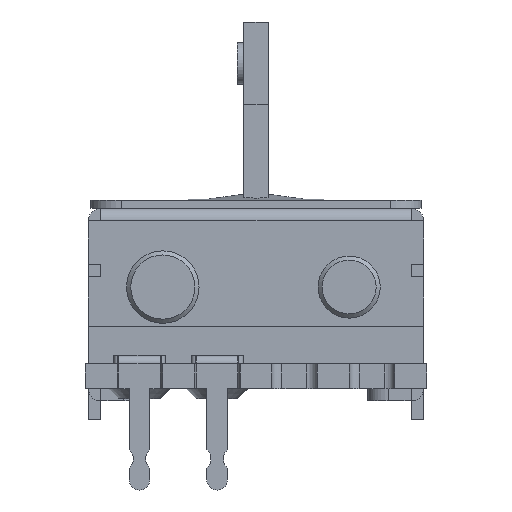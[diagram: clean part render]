
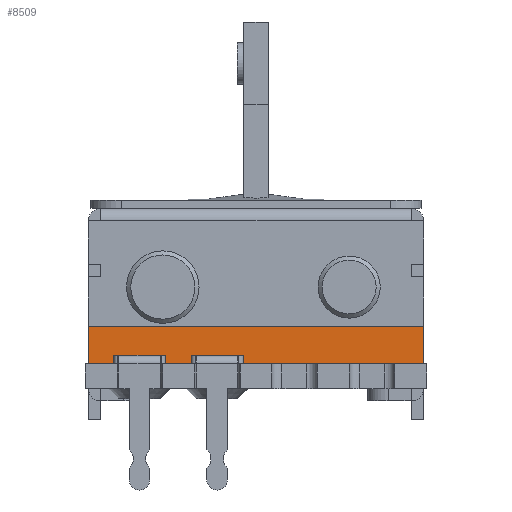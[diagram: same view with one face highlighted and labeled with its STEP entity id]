
A CAD part, left-side view. The second image highlights one B-rep face of the part: STEP entity #8509.
In plain terms, the highlighted planar face has unit normal (-1, 0, 0).
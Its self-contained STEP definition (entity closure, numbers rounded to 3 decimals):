
#156 = PLANE('',#157);
#157 = AXIS2_PLACEMENT_3D('',#158,#159,#160);
#158 = CARTESIAN_POINT('',(0.,8.1,-8.466));
#159 = DIRECTION('',(0.,1.,0.));
#160 = DIRECTION('',(0.,0.,1.));
#257 = PLANE('',#258);
#258 = AXIS2_PLACEMENT_3D('',#259,#260,#261);
#259 = CARTESIAN_POINT('',(0.,-8.1,-8.466));
#260 = DIRECTION('',(0.,-1.,0.));
#261 = DIRECTION('',(0.,0.,-1.));
#3009 = VERTEX_POINT('',#3010);
#3010 = CARTESIAN_POINT('',(-31.,8.1,-7.9));
#3023 = PLANE('',#3024);
#3024 = AXIS2_PLACEMENT_3D('',#3025,#3026,#3027);
#3025 = CARTESIAN_POINT('',(-36.5,-8.25,-7.9));
#3026 = DIRECTION('',(0.,0.,1.));
#3027 = DIRECTION('',(1.,0.,0.));
#3035 = EDGE_CURVE('',#3036,#3009,#3038,.T.);
#3036 = VERTEX_POINT('',#3037);
#3037 = CARTESIAN_POINT('',(-31.,8.1,-6.1));
#3038 = SURFACE_CURVE('',#3039,(#3043,#3049),.PCURVE_S1.);
#3039 = LINE('',#3040,#3041);
#3040 = CARTESIAN_POINT('',(-31.,8.1,-7.283));
#3041 = VECTOR('',#3042,1.);
#3042 = DIRECTION('',(0.,0.,-1.));
#3043 = PCURVE('',#156,#3044);
#3044 = DEFINITIONAL_REPRESENTATION('',(#3045),#3048);
#3045 = B_SPLINE_CURVE_WITH_KNOTS('',1,(#3046,#3047),.UNSPECIFIED.,.F.,
  .F.,(2,2),(-1.183,0.617),.PIECEWISE_BEZIER_KNOTS.);
#3046 = CARTESIAN_POINT('',(2.366,-31.));
#3047 = CARTESIAN_POINT('',(0.566,-31.));
#3048 = ( GEOMETRIC_REPRESENTATION_CONTEXT(2) 
PARAMETRIC_REPRESENTATION_CONTEXT() REPRESENTATION_CONTEXT('2D SPACE',''
  ) );
#3049 = PCURVE('',#3050,#3055);
#3050 = PLANE('',#3051);
#3051 = AXIS2_PLACEMENT_3D('',#3052,#3053,#3054);
#3052 = CARTESIAN_POINT('',(-31.,10.,-6.1));
#3053 = DIRECTION('',(1.,0.,0.));
#3054 = DIRECTION('',(0.,0.,-1.));
#3055 = DEFINITIONAL_REPRESENTATION('',(#3056),#3059);
#3056 = B_SPLINE_CURVE_WITH_KNOTS('',1,(#3057,#3058),.UNSPECIFIED.,.F.,
  .F.,(2,2),(-1.183,0.617),.PIECEWISE_BEZIER_KNOTS.);
#3057 = CARTESIAN_POINT('',(0.,-1.9));
#3058 = CARTESIAN_POINT('',(1.8,-1.9));
#3059 = ( GEOMETRIC_REPRESENTATION_CONTEXT(2) 
PARAMETRIC_REPRESENTATION_CONTEXT() REPRESENTATION_CONTEXT('2D SPACE',''
  ) );
#3076 = PLANE('',#3077);
#3077 = AXIS2_PLACEMENT_3D('',#3078,#3079,#3080);
#3078 = CARTESIAN_POINT('',(-40.,10.,-6.1));
#3079 = DIRECTION('',(0.,0.,1.));
#3080 = DIRECTION('',(1.,0.,0.));
#5571 = VERTEX_POINT('',#5572);
#5572 = CARTESIAN_POINT('',(-31.,-8.1,-6.1));
#5591 = EDGE_CURVE('',#5592,#5571,#5594,.T.);
#5592 = VERTEX_POINT('',#5593);
#5593 = CARTESIAN_POINT('',(-31.,-8.1,-7.9));
#5594 = SURFACE_CURVE('',#5595,(#5599,#5605),.PCURVE_S1.);
#5595 = LINE('',#5596,#5597);
#5596 = CARTESIAN_POINT('',(-31.,-8.1,-7.283));
#5597 = VECTOR('',#5598,1.);
#5598 = DIRECTION('',(0.,0.,1.));
#5599 = PCURVE('',#257,#5600);
#5600 = DEFINITIONAL_REPRESENTATION('',(#5601),#5604);
#5601 = B_SPLINE_CURVE_WITH_KNOTS('',1,(#5602,#5603),.UNSPECIFIED.,.F.,
  .F.,(2,2),(-0.617,1.183),.PIECEWISE_BEZIER_KNOTS.);
#5602 = CARTESIAN_POINT('',(-0.566,-31.));
#5603 = CARTESIAN_POINT('',(-2.366,-31.));
#5604 = ( GEOMETRIC_REPRESENTATION_CONTEXT(2) 
PARAMETRIC_REPRESENTATION_CONTEXT() REPRESENTATION_CONTEXT('2D SPACE',''
  ) );
#5605 = PCURVE('',#3050,#5606);
#5606 = DEFINITIONAL_REPRESENTATION('',(#5607),#5610);
#5607 = B_SPLINE_CURVE_WITH_KNOTS('',1,(#5608,#5609),.UNSPECIFIED.,.F.,
  .F.,(2,2),(-0.617,1.183),.PIECEWISE_BEZIER_KNOTS.);
#5608 = CARTESIAN_POINT('',(1.8,-18.1));
#5609 = CARTESIAN_POINT('',(0.,-18.1));
#5610 = ( GEOMETRIC_REPRESENTATION_CONTEXT(2) 
PARAMETRIC_REPRESENTATION_CONTEXT() REPRESENTATION_CONTEXT('2D SPACE',''
  ) );
#8486 = EDGE_CURVE('',#3036,#5571,#8487,.T.);
#8487 = SURFACE_CURVE('',#8488,(#8492,#8499),.PCURVE_S1.);
#8488 = LINE('',#8489,#8490);
#8489 = CARTESIAN_POINT('',(-31.,10.,-6.1));
#8490 = VECTOR('',#8491,1.);
#8491 = DIRECTION('',(0.,-1.,0.));
#8492 = PCURVE('',#3076,#8493);
#8493 = DEFINITIONAL_REPRESENTATION('',(#8494),#8498);
#8494 = LINE('',#8495,#8496);
#8495 = CARTESIAN_POINT('',(9.,0.));
#8496 = VECTOR('',#8497,1.);
#8497 = DIRECTION('',(0.,-1.));
#8498 = ( GEOMETRIC_REPRESENTATION_CONTEXT(2) 
PARAMETRIC_REPRESENTATION_CONTEXT() REPRESENTATION_CONTEXT('2D SPACE',''
  ) );
#8499 = PCURVE('',#3050,#8500);
#8500 = DEFINITIONAL_REPRESENTATION('',(#8501),#8505);
#8501 = LINE('',#8502,#8503);
#8502 = CARTESIAN_POINT('',(0.,0.));
#8503 = VECTOR('',#8504,1.);
#8504 = DIRECTION('',(0.,-1.));
#8505 = ( GEOMETRIC_REPRESENTATION_CONTEXT(2) 
PARAMETRIC_REPRESENTATION_CONTEXT() REPRESENTATION_CONTEXT('2D SPACE',''
  ) );
#8509 = ADVANCED_FACE('',(#8510),#3050,.F.);
#8510 = FACE_BOUND('',#8511,.F.);
#8511 = EDGE_LOOP('',(#8512,#8513,#8514,#8515,#8538,#8561));
#8512 = ORIENTED_EDGE('',*,*,#3035,.F.);
#8513 = ORIENTED_EDGE('',*,*,#8486,.T.);
#8514 = ORIENTED_EDGE('',*,*,#5591,.F.);
#8515 = ORIENTED_EDGE('',*,*,#8516,.F.);
#8516 = EDGE_CURVE('',#8517,#5592,#8519,.T.);
#8517 = VERTEX_POINT('',#8518);
#8518 = CARTESIAN_POINT('',(-31.,-7.5,-7.9));
#8519 = SURFACE_CURVE('',#8520,(#8524,#8531),.PCURVE_S1.);
#8520 = LINE('',#8521,#8522);
#8521 = CARTESIAN_POINT('',(-31.,10.,-7.9));
#8522 = VECTOR('',#8523,1.);
#8523 = DIRECTION('',(0.,-1.,0.));
#8524 = PCURVE('',#3050,#8525);
#8525 = DEFINITIONAL_REPRESENTATION('',(#8526),#8530);
#8526 = LINE('',#8527,#8528);
#8527 = CARTESIAN_POINT('',(1.8,0.));
#8528 = VECTOR('',#8529,1.);
#8529 = DIRECTION('',(0.,-1.));
#8530 = ( GEOMETRIC_REPRESENTATION_CONTEXT(2) 
PARAMETRIC_REPRESENTATION_CONTEXT() REPRESENTATION_CONTEXT('2D SPACE',''
  ) );
#8531 = PCURVE('',#3023,#8532);
#8532 = DEFINITIONAL_REPRESENTATION('',(#8533),#8537);
#8533 = LINE('',#8534,#8535);
#8534 = CARTESIAN_POINT('',(5.5,18.25));
#8535 = VECTOR('',#8536,1.);
#8536 = DIRECTION('',(0.,-1.));
#8537 = ( GEOMETRIC_REPRESENTATION_CONTEXT(2) 
PARAMETRIC_REPRESENTATION_CONTEXT() REPRESENTATION_CONTEXT('2D SPACE',''
  ) );
#8538 = ORIENTED_EDGE('',*,*,#8539,.F.);
#8539 = EDGE_CURVE('',#8540,#8517,#8542,.T.);
#8540 = VERTEX_POINT('',#8541);
#8541 = CARTESIAN_POINT('',(-31.,7.5,-7.9));
#8542 = SURFACE_CURVE('',#8543,(#8547,#8554),.PCURVE_S1.);
#8543 = LINE('',#8544,#8545);
#8544 = CARTESIAN_POINT('',(-31.,10.,-7.9));
#8545 = VECTOR('',#8546,1.);
#8546 = DIRECTION('',(0.,-1.,0.));
#8547 = PCURVE('',#3050,#8548);
#8548 = DEFINITIONAL_REPRESENTATION('',(#8549),#8553);
#8549 = LINE('',#8550,#8551);
#8550 = CARTESIAN_POINT('',(1.8,0.));
#8551 = VECTOR('',#8552,1.);
#8552 = DIRECTION('',(0.,-1.));
#8553 = ( GEOMETRIC_REPRESENTATION_CONTEXT(2) 
PARAMETRIC_REPRESENTATION_CONTEXT() REPRESENTATION_CONTEXT('2D SPACE',''
  ) );
#8554 = PCURVE('',#3023,#8555);
#8555 = DEFINITIONAL_REPRESENTATION('',(#8556),#8560);
#8556 = LINE('',#8557,#8558);
#8557 = CARTESIAN_POINT('',(5.5,18.25));
#8558 = VECTOR('',#8559,1.);
#8559 = DIRECTION('',(0.,-1.));
#8560 = ( GEOMETRIC_REPRESENTATION_CONTEXT(2) 
PARAMETRIC_REPRESENTATION_CONTEXT() REPRESENTATION_CONTEXT('2D SPACE',''
  ) );
#8561 = ORIENTED_EDGE('',*,*,#8562,.F.);
#8562 = EDGE_CURVE('',#3009,#8540,#8563,.T.);
#8563 = SURFACE_CURVE('',#8564,(#8568,#8575),.PCURVE_S1.);
#8564 = LINE('',#8565,#8566);
#8565 = CARTESIAN_POINT('',(-31.,10.,-7.9));
#8566 = VECTOR('',#8567,1.);
#8567 = DIRECTION('',(0.,-1.,0.));
#8568 = PCURVE('',#3050,#8569);
#8569 = DEFINITIONAL_REPRESENTATION('',(#8570),#8574);
#8570 = LINE('',#8571,#8572);
#8571 = CARTESIAN_POINT('',(1.8,0.));
#8572 = VECTOR('',#8573,1.);
#8573 = DIRECTION('',(0.,-1.));
#8574 = ( GEOMETRIC_REPRESENTATION_CONTEXT(2) 
PARAMETRIC_REPRESENTATION_CONTEXT() REPRESENTATION_CONTEXT('2D SPACE',''
  ) );
#8575 = PCURVE('',#3023,#8576);
#8576 = DEFINITIONAL_REPRESENTATION('',(#8577),#8581);
#8577 = LINE('',#8578,#8579);
#8578 = CARTESIAN_POINT('',(5.5,18.25));
#8579 = VECTOR('',#8580,1.);
#8580 = DIRECTION('',(0.,-1.));
#8581 = ( GEOMETRIC_REPRESENTATION_CONTEXT(2) 
PARAMETRIC_REPRESENTATION_CONTEXT() REPRESENTATION_CONTEXT('2D SPACE',''
  ) );
